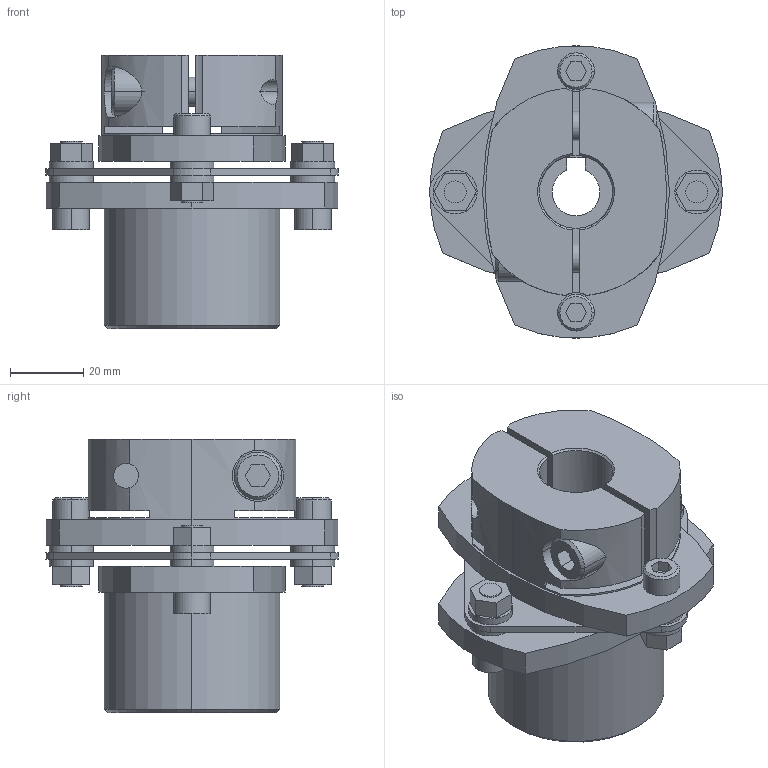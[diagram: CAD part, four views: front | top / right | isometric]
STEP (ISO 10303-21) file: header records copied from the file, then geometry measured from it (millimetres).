
FILE_DESCRIPTION((''),'2;1');
FILE_NAME('LCS-80M-16L亊20B.stp','2011-08-20T16:13:24',(''),(''),'AutoCAD STEP 2000i','AutoCAD 2000i',', , ');
FILE_SCHEMA(('CONFIG_CONTROL_DESIGN'));
Length unit declared in the file: millimetre
Products named in the file (7): LCS-80M-16L×20B; 忣兜1; LC80-B020; LC80M-L016; LC80-B015-1; LC80-B015; LCS80-ITA
Assembly tree (6 placements, depth 2):
  LCS-80M-16L×20B
    忣兜1
    LC80-B020
    LC80M-L016
    LC80-B015-1
    LC80-B015
    LCS80-ITA
Bounding box: 80 x 79.95 x 74.75 mm (x, y, z)
Volume: 144188.6 mm3; surface area: 41743.9 mm2
Topology: 1 solids, 1 shells, 230 faces, 580 edges, 382 vertices
Faces by surface type: plane 115, cylinder 96, cone 19
Entity records: 7435 total; most frequent: CARTESIAN_POINT 1523, DIRECTION 1254, ORIENTED_EDGE 1160, EDGE_CURVE 580, AXIS2_PLACEMENT_3D 459, VERTEX_POINT 382, VECTOR 336, LINE 336
